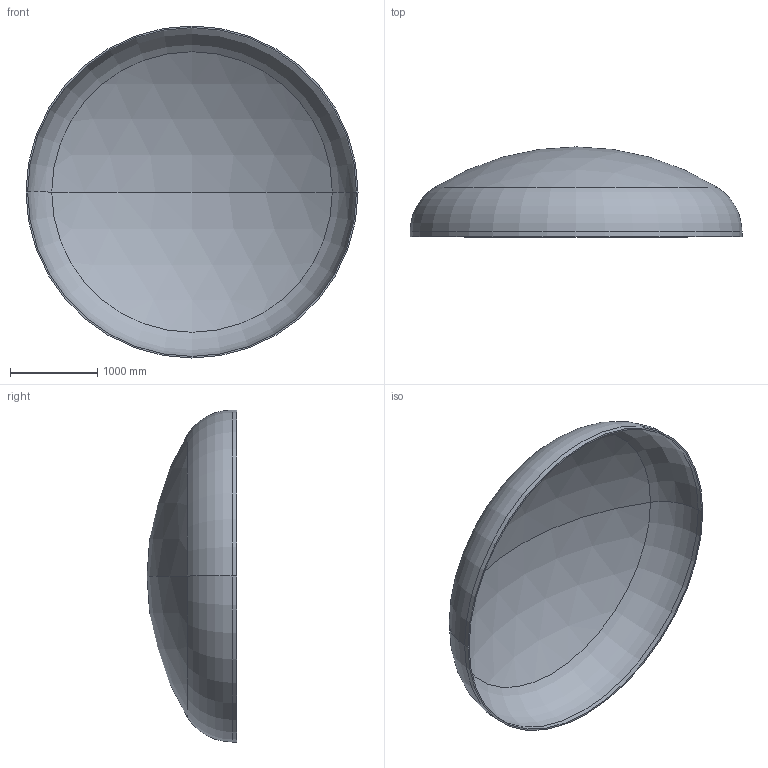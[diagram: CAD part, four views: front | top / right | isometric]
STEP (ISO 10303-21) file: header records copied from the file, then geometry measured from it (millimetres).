
FILE_DESCRIPTION (( 'STEP AP203' ), '1' );
FILE_NAME ('DIN 28013 Korbbogenform_-_Boden DIN 28013 - 3800 x 55 - I - s=18.step', '2016-07-01T21:07:09', ( '' ), ( '' ), 'SwSTEP 2.0', 'SolidWorks 2013', '' );
FILE_SCHEMA (( 'CONFIG_CONTROL_DESIGN' ));
Length unit declared in the file: millimetre
Products named in the file (1): DIN 28013 Korbbogenform_-_Boden DIN 28013 - 3800 x 55 - I - s=18
Bounding box: 3800 x 1028.58 x 3800 mm (x, y, z)
Volume: 292721933.4 mm3; surface area: 32739192 mm2
Topology: 1 solids, 1 shells, 13 faces, 24 edges, 14 vertices
Faces by surface type: torus 4, cylinder 4, sphere 4, plane 1
Entity records: 407 total; most frequent: DIRECTION 72, CARTESIAN_POINT 52, ORIENTED_EDGE 48, AXIS2_PLACEMENT_3D 34, EDGE_CURVE 24, CIRCLE 20, EDGE_LOOP 14, VERTEX_POINT 14
